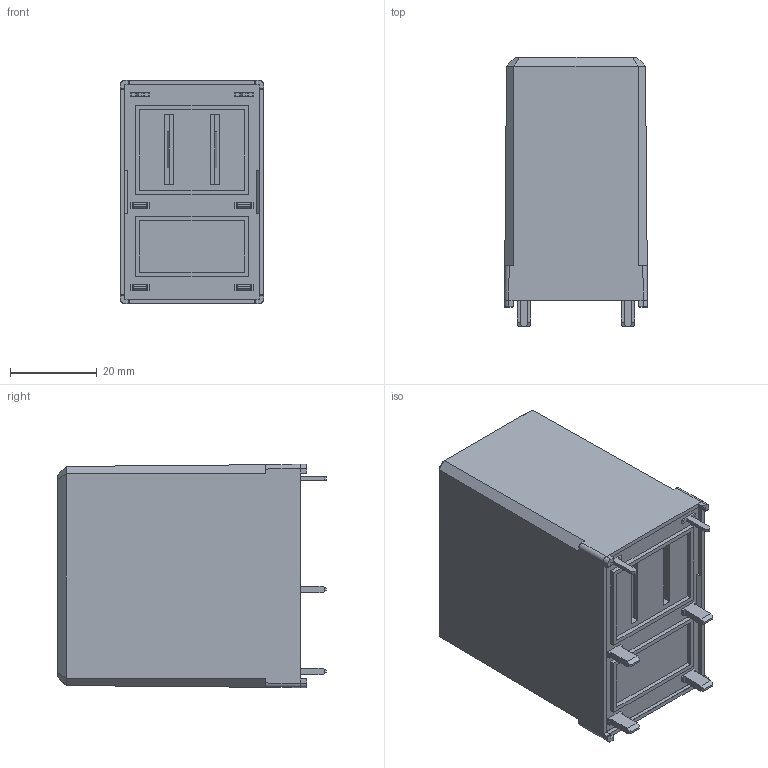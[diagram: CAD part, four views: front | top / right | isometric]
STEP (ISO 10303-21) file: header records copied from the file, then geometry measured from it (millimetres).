
FILE_DESCRIPTION(('STEP AP214'),'2;1');
FILE_NAME('6722 corsa 3 --- catalogo.stp','2012-07-20T08:30:20',(''),(''),'2007.1.106','THINKDESIGN','');
FILE_SCHEMA(('AUTOMOTIVE_DESIGN'));
Length unit declared in the file: millimetre
Products named in the file (1): top
Bounding box: 33 x 62 x 51.5 mm (x, y, z)
Surface area: 13960.9 mm2 (no closed solid volume)
Topology: 0 solids, 0 shells, 231 faces, 1237 edges, 1238 vertices
Faces by surface type: plane 192, cylinder 30, bspline 9
Full cylindrical faces by diameter (mm): 1.5 x2
Entity records: 11209 total; most frequent: CARTESIAN_POINT 3802, DIRECTION 1607, COMPOSITE_CURVE_SEGMENT 1236, TRIMMED_CURVE 1105, VECTOR 1049, LINE 1049, AXIS2_PLACEMENT_3D 279, STYLED_ITEM 233
